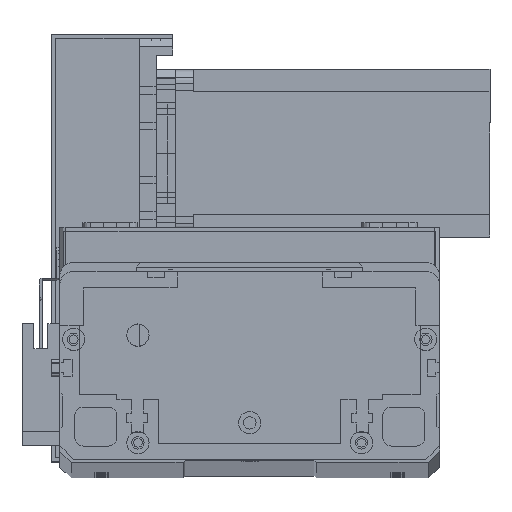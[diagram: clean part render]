
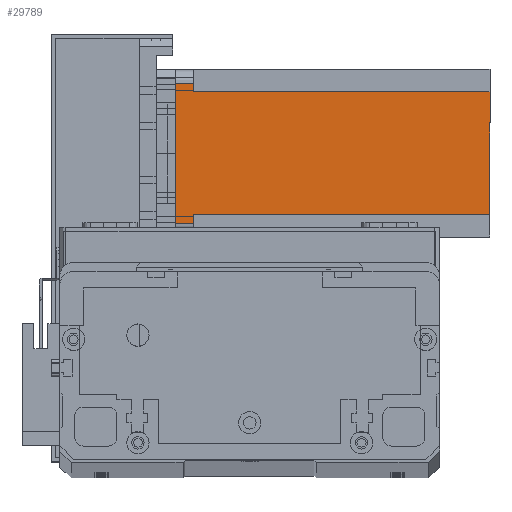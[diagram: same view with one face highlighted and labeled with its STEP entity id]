
A CAD part, top view. The second image highlights one B-rep face of the part: STEP entity #29789.
In plain terms, the highlighted planar face has unit normal (0, 0, 1) as drawn and (0, -1, 0) by its records, which use the part's own axes.
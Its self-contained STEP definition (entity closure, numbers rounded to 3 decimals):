
#1177 = FACE_OUTER_BOUND ( 'NONE', #17791, .T. ) ;
#1202 = DIRECTION ( 'NONE',  ( 0., 0., 1. ) ) ;
#1353 = CARTESIAN_POINT ( 'NONE',  ( 55., 0., 0. ) ) ;
#1778 = ORIENTED_EDGE ( 'NONE', *, *, #27907, .F. ) ;
#2064 = ORIENTED_EDGE ( 'NONE', *, *, #28880, .F. ) ;
#2415 = VECTOR ( 'NONE', #20251, 1000. ) ;
#2586 = CARTESIAN_POINT ( 'NONE',  ( 5., 0., -112.5 ) ) ;
#2811 = LINE ( 'NONE', #9219, #27653 ) ;
#3451 = CARTESIAN_POINT ( 'NONE',  ( 52., 0., -6.5 ) ) ;
#4561 = CARTESIAN_POINT ( 'NONE',  ( 0., 0., -112.5 ) ) ;
#4678 = CARTESIAN_POINT ( 'NONE',  ( 0., 0., 0. ) ) ;
#7246 = ORIENTED_EDGE ( 'NONE', *, *, #28618, .T. ) ;
#9046 = LINE ( 'NONE', #15516, #2415 ) ;
#9219 = CARTESIAN_POINT ( 'NONE',  ( 52., 0., -112.5 ) ) ;
#10289 = VERTEX_POINT ( 'NONE', #21772 ) ;
#12318 = ORIENTED_EDGE ( 'NONE', *, *, #27290, .T. ) ;
#12886 = LINE ( 'NONE', #2586, #18471 ) ;
#13312 = DIRECTION ( 'NONE',  ( -1., 0., 0. ) ) ;
#13932 = AXIS2_PLACEMENT_3D ( 'NONE', #4561, #30946, #16856 ) ;
#14500 = PLANE ( 'NONE',  #13932 ) ;
#15516 = CARTESIAN_POINT ( 'NONE',  ( 0., 0., -112.5 ) ) ;
#16100 = DIRECTION ( 'NONE',  ( 1., 0., 0. ) ) ;
#16315 = LINE ( 'NONE', #30056, #28781 ) ;
#16675 = VECTOR ( 'NONE', #13312, 1000. ) ;
#16856 = DIRECTION ( 'NONE',  ( 0., 0., -1. ) ) ;
#16958 = DIRECTION ( 'NONE',  ( 1., 0., 0. ) ) ;
#17214 = CARTESIAN_POINT ( 'NONE',  ( 5., 0., 0. ) ) ;
#17235 = DIRECTION ( 'NONE',  ( 0., 0., -1. ) ) ;
#17731 = VERTEX_POINT ( 'NONE', #3451 ) ;
#17791 = EDGE_LOOP ( 'NONE', ( #17824, #12318, #27051, #22508, #1778, #17852, #7246, #2064 ) ) ;
#17824 = ORIENTED_EDGE ( 'NONE', *, *, #26887, .T. ) ;
#17852 = ORIENTED_EDGE ( 'NONE', *, *, #28179, .F. ) ;
#17990 = VERTEX_POINT ( 'NONE', #26080 ) ;
#18074 = CARTESIAN_POINT ( 'NONE',  ( 8., 0., -6.5 ) ) ;
#18471 = VECTOR ( 'NONE', #17235, 1000. ) ;
#18495 = VERTEX_POINT ( 'NONE', #23051 ) ;
#18825 = EDGE_CURVE ( 'NONE', #30542, #22703, #23931, .T. ) ;
#19651 = VERTEX_POINT ( 'NONE', #24965 ) ;
#20251 = DIRECTION ( 'NONE',  ( 1., 0., 0. ) ) ;
#20729 = LINE ( 'NONE', #27043, #27709 ) ;
#21011 = VECTOR ( 'NONE', #16958, 1000. ) ;
#21772 = CARTESIAN_POINT ( 'NONE',  ( 55., 0., -6.5 ) ) ;
#21911 = CARTESIAN_POINT ( 'NONE',  ( 8., 0., -6.5 ) ) ;
#22173 = LINE ( 'NONE', #18074, #16675 ) ;
#22508 = ORIENTED_EDGE ( 'NONE', *, *, #27823, .T. ) ;
#22703 = VERTEX_POINT ( 'NONE', #1353 ) ;
#23051 = CARTESIAN_POINT ( 'NONE',  ( 8., 0., -112.5 ) ) ;
#23294 = VECTOR ( 'NONE', #16100, 1000. ) ;
#23931 = LINE ( 'NONE', #4678, #21011 ) ;
#24965 = CARTESIAN_POINT ( 'NONE',  ( 5., 0., -6.5 ) ) ;
#25396 = VERTEX_POINT ( 'NONE', #21911 ) ;
#26080 = CARTESIAN_POINT ( 'NONE',  ( 52., 0., -112.5 ) ) ;
#26887 = EDGE_CURVE ( 'NONE', #17731, #10289, #30326, .T. ) ;
#26935 = DIRECTION ( 'NONE',  ( 0., 0., 1. ) ) ;
#27043 = CARTESIAN_POINT ( 'NONE',  ( 55., 0., -112.5 ) ) ;
#27051 = ORIENTED_EDGE ( 'NONE', *, *, #18825, .F. ) ;
#27290 = EDGE_CURVE ( 'NONE', #10289, #22703, #20729, .T. ) ;
#27653 = VECTOR ( 'NONE', #30614, 1000. ) ;
#27709 = VECTOR ( 'NONE', #26935, 1000. ) ;
#27805 = CARTESIAN_POINT ( 'NONE',  ( 52., 0., -6.5 ) ) ;
#27823 = EDGE_CURVE ( 'NONE', #30542, #19651, #12886, .T. ) ;
#27907 = EDGE_CURVE ( 'NONE', #25396, #19651, #22173, .T. ) ;
#28179 = EDGE_CURVE ( 'NONE', #18495, #25396, #16315, .T. ) ;
#28618 = EDGE_CURVE ( 'NONE', #18495, #17990, #9046, .T. ) ;
#28781 = VECTOR ( 'NONE', #1202, 1000. ) ;
#28880 = EDGE_CURVE ( 'NONE', #17731, #17990, #2811, .T. ) ;
#29789 = ADVANCED_FACE ( 'NONE', ( #1177 ), #14500, .T. ) ;
#30056 = CARTESIAN_POINT ( 'NONE',  ( 8., 0., -112.5 ) ) ;
#30326 = LINE ( 'NONE', #27805, #23294 ) ;
#30542 = VERTEX_POINT ( 'NONE', #17214 ) ;
#30614 = DIRECTION ( 'NONE',  ( 0., 0., -1. ) ) ;
#30946 = DIRECTION ( 'NONE',  ( 0., -1., 0. ) ) ;
